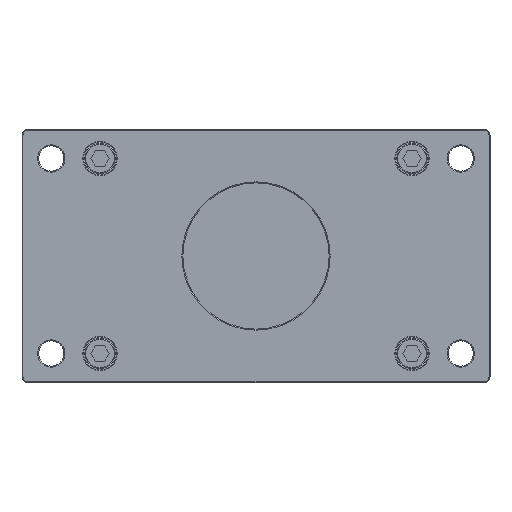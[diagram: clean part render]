
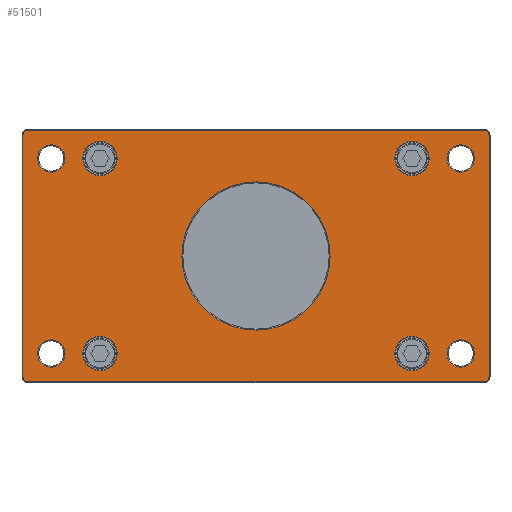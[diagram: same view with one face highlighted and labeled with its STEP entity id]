
A CAD part, front view. The second image highlights one B-rep face of the part: STEP entity #51501.
In plain terms, the highlighted planar face has unit normal (0, -1, 0) as drawn and (0, 1, 0) by its records, which use the part's own axes.
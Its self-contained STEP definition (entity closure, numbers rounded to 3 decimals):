
#49953=CARTESIAN_POINT('',(0.,9.,0.));
#49954=DIRECTION('',(0.,-1.,0.));
#49955=DIRECTION('',(1.,0.,0.));
#49956=AXIS2_PLACEMENT_3D('',#49953,#49954,#49955);
#49958=CARTESIAN_POINT('',(0.,9.,0.));
#49959=DIRECTION('',(0.,-1.,0.));
#49960=DIRECTION('',(-1.,0.,0.));
#49961=AXIS2_PLACEMENT_3D('',#49958,#49959,#49960);
#49963=CARTESIAN_POINT('',(-105.,9.,-50.));
#49964=DIRECTION('',(0.,-1.,0.));
#49965=DIRECTION('',(-1.,0.,0.));
#49966=AXIS2_PLACEMENT_3D('',#49963,#49964,#49965);
#49968=CARTESIAN_POINT('',(-105.,9.,-50.));
#49969=DIRECTION('',(0.,-1.,0.));
#49970=DIRECTION('',(1.,0.,0.));
#49971=AXIS2_PLACEMENT_3D('',#49968,#49969,#49970);
#49973=CARTESIAN_POINT('',(105.,9.,-50.));
#49974=DIRECTION('',(0.,-1.,0.));
#49975=DIRECTION('',(-1.,0.,0.));
#49976=AXIS2_PLACEMENT_3D('',#49973,#49974,#49975);
#49978=CARTESIAN_POINT('',(105.,9.,-50.));
#49979=DIRECTION('',(0.,-1.,0.));
#49980=DIRECTION('',(1.,0.,0.));
#49981=AXIS2_PLACEMENT_3D('',#49978,#49979,#49980);
#49983=CARTESIAN_POINT('',(105.,9.,50.));
#49984=DIRECTION('',(0.,-1.,0.));
#49985=DIRECTION('',(1.,0.,0.));
#49986=AXIS2_PLACEMENT_3D('',#49983,#49984,#49985);
#49988=CARTESIAN_POINT('',(105.,9.,50.));
#49989=DIRECTION('',(0.,-1.,0.));
#49990=DIRECTION('',(-1.,0.,0.));
#49991=AXIS2_PLACEMENT_3D('',#49988,#49989,#49990);
#49993=CARTESIAN_POINT('',(-105.,9.,50.));
#49994=DIRECTION('',(0.,-1.,0.));
#49995=DIRECTION('',(-1.,0.,0.));
#49996=AXIS2_PLACEMENT_3D('',#49993,#49994,#49995);
#49998=CARTESIAN_POINT('',(-105.,9.,50.));
#49999=DIRECTION('',(0.,-1.,0.));
#50000=DIRECTION('',(1.,0.,0.));
#50001=AXIS2_PLACEMENT_3D('',#49998,#49999,#50000);
#50003=CARTESIAN_POINT('',(-117.,9.,-62.));
#50004=DIRECTION('',(0.,1.,0.));
#50005=DIRECTION('',(0.,0.,-1.));
#50006=AXIS2_PLACEMENT_3D('',#50003,#50004,#50005);
#50008=DIRECTION('',(-1.,0.,0.));
#50009=VECTOR('',#50008,234.);
#50010=CARTESIAN_POINT('',(117.,9.,
-64.5));
#50011=LINE('',#50010,#50009);
#50012=CARTESIAN_POINT('',(117.,9.,-62.));
#50013=DIRECTION('',(0.,1.,0.));
#50014=DIRECTION('',(1.,0.,0.));
#50015=AXIS2_PLACEMENT_3D('',#50012,#50013,#50014);
#50017=DIRECTION('',(0.,0.,-1.));
#50018=VECTOR('',#50017,124.);
#50019=CARTESIAN_POINT('',(119.5,9.,62.));
#50020=LINE('',#50019,#50018);
#50021=CARTESIAN_POINT('',(117.,9.,62.));
#50022=DIRECTION('',(0.,1.,0.));
#50023=DIRECTION('',(0.,0.,1.));
#50024=AXIS2_PLACEMENT_3D('',#50021,#50022,#50023);
#50026=DIRECTION('',(1.,0.,0.));
#50027=VECTOR('',#50026,234.);
#50028=CARTESIAN_POINT('',(-117.,9.,
64.5));
#50029=LINE('',#50028,#50027);
#50030=CARTESIAN_POINT('',(-117.,9.,62.));
#50031=DIRECTION('',(0.,1.,0.));
#50032=DIRECTION('',(-1.,0.,0.));
#50033=AXIS2_PLACEMENT_3D('',#50030,#50031,#50032);
#50035=DIRECTION('',(0.,0.,1.));
#50036=VECTOR('',#50035,124.);
#50037=CARTESIAN_POINT('',(-119.5,9.,
-62.));
#50038=LINE('',#50037,#50036);
#50039=CARTESIAN_POINT('',(80.,9.,50.));
#50040=DIRECTION('',(0.,-1.,0.));
#50041=DIRECTION('',(1.,0.,0.));
#50042=AXIS2_PLACEMENT_3D('',#50039,#50040,#50041);
#50044=CARTESIAN_POINT('',(80.,9.,50.));
#50045=DIRECTION('',(0.,-1.,0.));
#50046=DIRECTION('',(-1.,0.,0.));
#50047=AXIS2_PLACEMENT_3D('',#50044,#50045,#50046);
#50049=CARTESIAN_POINT('',(-80.,9.,50.));
#50050=DIRECTION('',(0.,-1.,0.));
#50051=DIRECTION('',(1.,0.,0.));
#50052=AXIS2_PLACEMENT_3D('',#50049,#50050,#50051);
#50054=CARTESIAN_POINT('',(-80.,9.,50.));
#50055=DIRECTION('',(0.,-1.,0.));
#50056=DIRECTION('',(-1.,0.,0.));
#50057=AXIS2_PLACEMENT_3D('',#50054,#50055,#50056);
#50059=CARTESIAN_POINT('',(80.,9.,-50.));
#50060=DIRECTION('',(0.,-1.,0.));
#50061=DIRECTION('',(1.,0.,0.));
#50062=AXIS2_PLACEMENT_3D('',#50059,#50060,#50061);
#50064=CARTESIAN_POINT('',(80.,9.,-50.));
#50065=DIRECTION('',(0.,-1.,0.));
#50066=DIRECTION('',(-1.,0.,0.));
#50067=AXIS2_PLACEMENT_3D('',#50064,#50065,#50066);
#50069=CARTESIAN_POINT('',(-80.,9.,-50.));
#50070=DIRECTION('',(0.,-1.,0.));
#50071=DIRECTION('',(1.,0.,0.));
#50072=AXIS2_PLACEMENT_3D('',#50069,#50070,#50071);
#50074=CARTESIAN_POINT('',(-80.,9.,-50.));
#50075=DIRECTION('',(0.,-1.,0.));
#50076=DIRECTION('',(-1.,0.,0.));
#50077=AXIS2_PLACEMENT_3D('',#50074,#50075,#50076);
#50985=CARTESIAN_POINT('',(38.,9.,0.));
#50986=CARTESIAN_POINT('',(-38.,9.,0.));
#50987=VERTEX_POINT('',#50985);
#50988=VERTEX_POINT('',#50986);
#51001=CARTESIAN_POINT('',(-112.,9.,-50.));
#51002=CARTESIAN_POINT('',(-98.,9.,-50.));
#51003=VERTEX_POINT('',#51001);
#51004=VERTEX_POINT('',#51002);
#51009=CARTESIAN_POINT('',(98.,9.,-50.));
#51010=CARTESIAN_POINT('',(112.,9.,-50.));
#51011=VERTEX_POINT('',#51009);
#51012=VERTEX_POINT('',#51010);
#51017=CARTESIAN_POINT('',(112.,9.,50.));
#51018=CARTESIAN_POINT('',(98.,9.,50.));
#51019=VERTEX_POINT('',#51017);
#51020=VERTEX_POINT('',#51018);
#51025=CARTESIAN_POINT('',(-112.,9.,50.));
#51026=CARTESIAN_POINT('',(-98.,9.,50.));
#51027=VERTEX_POINT('',#51025);
#51028=VERTEX_POINT('',#51026);
#51097=CARTESIAN_POINT('',(-117.,9.,-64.5));
#51098=CARTESIAN_POINT('',(-119.5,9.,-62.));
#51099=VERTEX_POINT('',#51097);
#51100=VERTEX_POINT('',#51098);
#51105=CARTESIAN_POINT('',(-119.5,9.,
62.));
#51106=VERTEX_POINT('',#51105);
#51109=CARTESIAN_POINT('',(-117.,9.,64.5));
#51110=VERTEX_POINT('',#51109);
#51113=CARTESIAN_POINT('',(117.,9.,64.5));
#51114=VERTEX_POINT('',#51113);
#51117=CARTESIAN_POINT('',(119.5,9.,62.));
#51118=VERTEX_POINT('',#51117);
#51121=CARTESIAN_POINT('',(119.5,9.,
-62.));
#51122=VERTEX_POINT('',#51121);
#51125=CARTESIAN_POINT('',(117.,9.,-64.5));
#51126=VERTEX_POINT('',#51125);
#51145=CARTESIAN_POINT('',(88.8,9.,50.));
#51146=CARTESIAN_POINT('',(71.2,9.,50.));
#51147=VERTEX_POINT('',#51145);
#51148=VERTEX_POINT('',#51146);
#51169=CARTESIAN_POINT('',(-71.2,9.,50.));
#51170=CARTESIAN_POINT('',(-88.8,9.,50.));
#51171=VERTEX_POINT('',#51169);
#51172=VERTEX_POINT('',#51170);
#51185=CARTESIAN_POINT('',(88.8,9.,-50.));
#51186=CARTESIAN_POINT('',(71.2,9.,-50.));
#51187=VERTEX_POINT('',#51185);
#51188=VERTEX_POINT('',#51186);
#51193=CARTESIAN_POINT('',(-71.2,9.,-50.));
#51194=CARTESIAN_POINT('',(-88.8,9.,-50.));
#51195=VERTEX_POINT('',#51193);
#51196=VERTEX_POINT('',#51194);
#51425=CARTESIAN_POINT('',(0.,9.,0.));
#51426=DIRECTION('',(0.,1.,0.));
#51427=DIRECTION('',(1.,0.,0.));
#51428=AXIS2_PLACEMENT_3D('',#51425,#51426,#51427);
#51429=PLANE('',#51428);
#51431=ORIENTED_EDGE('',*,*,#51430,.F.);
#51433=ORIENTED_EDGE('',*,*,#51432,.F.);
#51435=ORIENTED_EDGE('',*,*,#51434,.F.);
#51437=ORIENTED_EDGE('',*,*,#51436,.F.);
#51439=ORIENTED_EDGE('',*,*,#51438,.F.);
#51441=ORIENTED_EDGE('',*,*,#51440,.F.);
#51443=ORIENTED_EDGE('',*,*,#51442,.F.);
#51445=ORIENTED_EDGE('',*,*,#51444,.F.);
#51446=EDGE_LOOP('',(#51431,#51433,#51435,#51437,#51439,#51441,#51443,#51445));
#51447=FACE_OUTER_BOUND('',#51446,.F.);
#51449=ORIENTED_EDGE('',*,*,#51448,.F.);
#51451=ORIENTED_EDGE('',*,*,#51450,.F.);
#51452=EDGE_LOOP('',(#51449,#51451));
#51453=FACE_BOUND('',#51452,.F.);
#51455=ORIENTED_EDGE('',*,*,#51454,.F.);
#51457=ORIENTED_EDGE('',*,*,#51456,.F.);
#51458=EDGE_LOOP('',(#51455,#51457));
#51459=FACE_BOUND('',#51458,.F.);
#51461=ORIENTED_EDGE('',*,*,#51460,.F.);
#51463=ORIENTED_EDGE('',*,*,#51462,.F.);
#51464=EDGE_LOOP('',(#51461,#51463));
#51465=FACE_BOUND('',#51464,.F.);
#51467=ORIENTED_EDGE('',*,*,#51466,.F.);
#51469=ORIENTED_EDGE('',*,*,#51468,.F.);
#51470=EDGE_LOOP('',(#51467,#51469));
#51471=FACE_BOUND('',#51470,.F.);
#51473=ORIENTED_EDGE('',*,*,#51472,.F.);
#51474=ORIENTED_EDGE('',*,*,#51415,.F.);
#51475=EDGE_LOOP('',(#51473,#51474));
#51476=FACE_BOUND('',#51475,.F.);
#51478=ORIENTED_EDGE('',*,*,#51477,.F.);
#51480=ORIENTED_EDGE('',*,*,#51479,.F.);
#51481=EDGE_LOOP('',(#51478,#51480));
#51482=FACE_BOUND('',#51481,.F.);
#51484=ORIENTED_EDGE('',*,*,#51483,.F.);
#51486=ORIENTED_EDGE('',*,*,#51485,.F.);
#51487=EDGE_LOOP('',(#51484,#51486));
#51488=FACE_BOUND('',#51487,.F.);
#51490=ORIENTED_EDGE('',*,*,#51489,.F.);
#51492=ORIENTED_EDGE('',*,*,#51491,.F.);
#51493=EDGE_LOOP('',(#51490,#51492));
#51494=FACE_BOUND('',#51493,.F.);
#51496=ORIENTED_EDGE('',*,*,#51495,.F.);
#51498=ORIENTED_EDGE('',*,*,#51497,.F.);
#51499=EDGE_LOOP('',(#51496,#51498));
#51500=FACE_BOUND('',#51499,.F.);
#51501=ADVANCED_FACE('',(#51447,#51453,#51459,#51465,#51471,#51476,#51482,
#51488,#51494,#51500),#51429,.T.);
#49957=CIRCLE('',#49956,38.);
#49962=CIRCLE('',#49961,38.);
#49967=CIRCLE('',#49966,7.);
#49972=CIRCLE('',#49971,7.);
#49977=CIRCLE('',#49976,7.);
#49982=CIRCLE('',#49981,7.);
#49987=CIRCLE('',#49986,7.);
#49992=CIRCLE('',#49991,7.);
#49997=CIRCLE('',#49996,7.);
#50002=CIRCLE('',#50001,7.);
#50007=CIRCLE('',#50006,2.5);
#50016=CIRCLE('',#50015,2.5);
#50025=CIRCLE('',#50024,2.5);
#50034=CIRCLE('',#50033,2.5);
#50043=CIRCLE('',#50042,8.8);
#50048=CIRCLE('',#50047,8.8);
#50053=CIRCLE('',#50052,8.8);
#50058=CIRCLE('',#50057,8.8);
#50063=CIRCLE('',#50062,8.8);
#50068=CIRCLE('',#50067,8.8);
#50073=CIRCLE('',#50072,8.8);
#50078=CIRCLE('',#50077,8.8);
#51415=EDGE_CURVE('',#50988,#50987,#49962,.T.);
#51430=EDGE_CURVE('',#51099,#51100,#50007,.T.);
#51432=EDGE_CURVE('',#51126,#51099,#50011,.T.);
#51434=EDGE_CURVE('',#51122,#51126,#50016,.T.);
#51436=EDGE_CURVE('',#51118,#51122,#50020,.T.);
#51438=EDGE_CURVE('',#51114,#51118,#50025,.T.);
#51440=EDGE_CURVE('',#51110,#51114,#50029,.T.);
#51442=EDGE_CURVE('',#51106,#51110,#50034,.T.);
#51444=EDGE_CURVE('',#51100,#51106,#50038,.T.);
#51448=EDGE_CURVE('',#51003,#51004,#49967,.T.);
#51450=EDGE_CURVE('',#51004,#51003,#49972,.T.);
#51454=EDGE_CURVE('',#51011,#51012,#49977,.T.);
#51456=EDGE_CURVE('',#51012,#51011,#49982,.T.);
#51460=EDGE_CURVE('',#51019,#51020,#49987,.T.);
#51462=EDGE_CURVE('',#51020,#51019,#49992,.T.);
#51466=EDGE_CURVE('',#51027,#51028,#49997,.T.);
#51468=EDGE_CURVE('',#51028,#51027,#50002,.T.);
#51472=EDGE_CURVE('',#50987,#50988,#49957,.T.);
#51477=EDGE_CURVE('',#51147,#51148,#50043,.T.);
#51479=EDGE_CURVE('',#51148,#51147,#50048,.T.);
#51483=EDGE_CURVE('',#51171,#51172,#50053,.T.);
#51485=EDGE_CURVE('',#51172,#51171,#50058,.T.);
#51489=EDGE_CURVE('',#51187,#51188,#50063,.T.);
#51491=EDGE_CURVE('',#51188,#51187,#50068,.T.);
#51495=EDGE_CURVE('',#51195,#51196,#50073,.T.);
#51497=EDGE_CURVE('',#51196,#51195,#50078,.T.);
